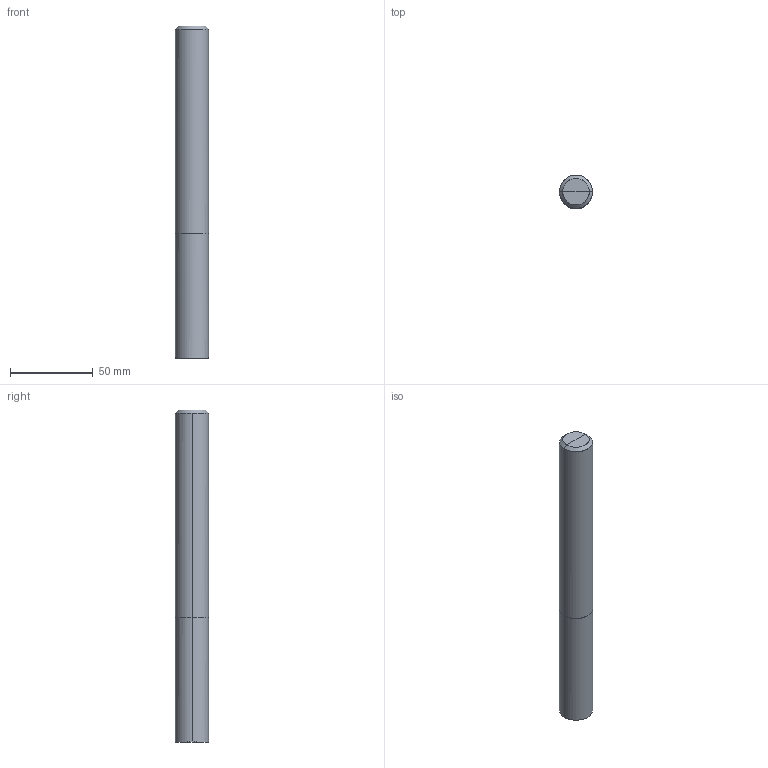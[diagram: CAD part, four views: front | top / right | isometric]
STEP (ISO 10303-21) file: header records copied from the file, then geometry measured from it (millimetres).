
FILE_DESCRIPTION(/* description */ (''),/* implementation_level */ '2;1');
FILE_NAME(/*name*/ '2121-20',/*time_stamp*/'2021-6-28T13:32:56',/*author*/ ('ISBE GmbH'),/*organization*/ ('ISBE GmbH'),/*preprocessor_version*/ 'STEP IO v1.0',/*originating_system*/ '',/*authorisation*/ '');
FILE_SCHEMA (('AUTOMOTIVE_DESIGN'));
Length unit declared in the file: millimetre
Products named in the file (1): Document
Bounding box: 20 x 20 x 200 mm (x, y, z)
Surface area: 13763.6 mm2 (no closed solid volume)
Topology: 0 solids, 14 shells, 14 faces, 58 edges, 52 vertices
Faces by surface type: bspline 14
Entity records: 1907 total; most frequent: CARTESIAN_POINT 1642, VERTEX_POINT 48, EDGE_CURVE 48, ORIENTED_EDGE 48, DIRECTION 16, EDGE_LOOP 14, FACE_OUTER_BOUND 14, ADVANCED_FACE 14
